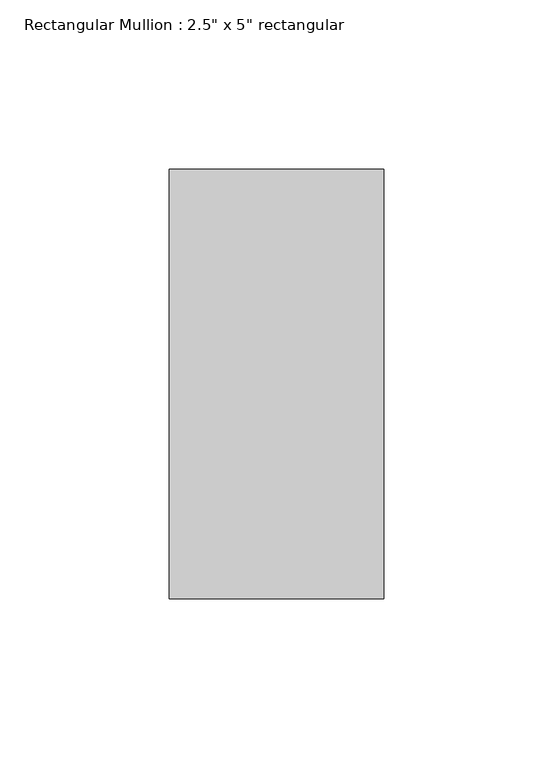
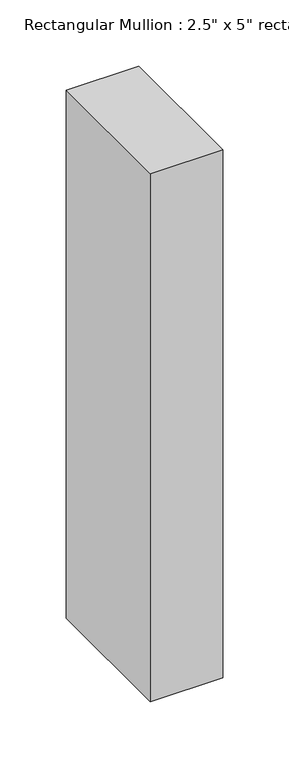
"""IFC4 building model written with IfcOpenShell, lengths in millimetres: member geometry."""

from ifc_helpers import new_model, si_unit, frame, origin, place, context, project, spatial, polyline, outline, extrude, source, transform, mapped, element, save


def member_38515ece(model_context):
    return source(origin(), model_context, "Body", "SweptSolid", [
        extrude(outline(polyline([(0.0, 63.5), (0.0, -63.5), (-63.5, -63.5), (-63.5, 63.5), (0.0, 63.5)])), frame((0.0, 0.0, -487.68), z_axis=(0.0, 0.0, 1.0), x_axis=(1.0, 0.0, 0.0)), (0.0, 0.0, 1.0), 487.68),
    ])


if __name__ == "__main__":
    model = new_model("IFC4")
    model_context = context("Model", 3, world=origin())
    ifc_project = project(units=[si_unit("LENGTHUNIT", "METRE", prefix="MILLI")], contexts=[model_context])
    site = spatial("IfcSite", under=ifc_project)
    building = spatial("IfcBuilding", under=site)
    placement = place(None, origin())
    member_shape = member_38515ece(model_context)
    element("IfcMember", 1, ObjectType="Rectangular Mullion : 2.5\" x 5\" rectangular", at=placement, inside=building, context=model_context, shape_type="MappedRepresentation", body=[
        mapped(member_shape, transform((0.0, 0.0, 0.0), x_axis=(1.0, 0.0, 0.0), y_axis=(0.0, 1.0, 0.0), z_axis=(0.0, 0.0, 1.0))),
    ])
    save(model, "model.ifc")
